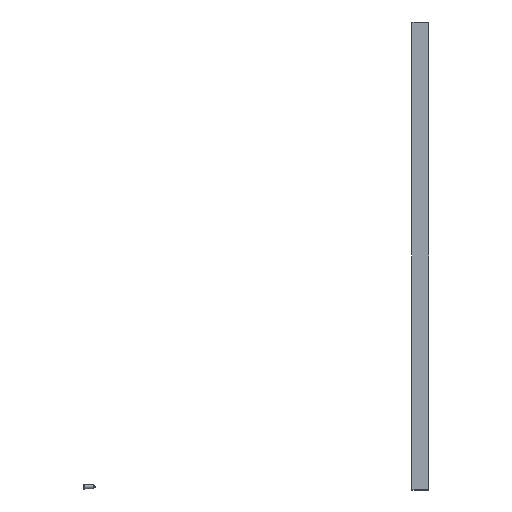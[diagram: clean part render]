
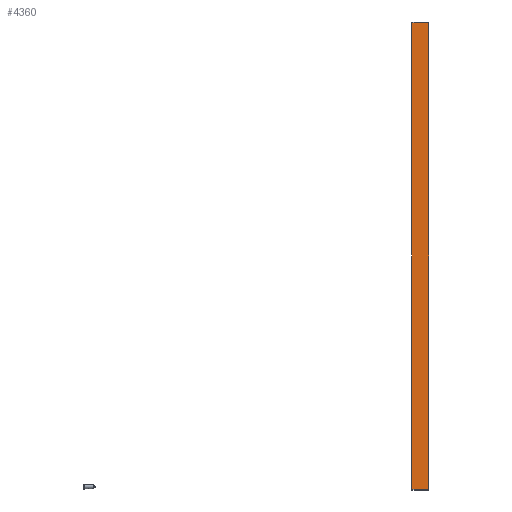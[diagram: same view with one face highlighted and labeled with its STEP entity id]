
A CAD part, left-side view. The second image highlights one B-rep face of the part: STEP entity #4360.
In plain terms, the highlighted planar face has unit normal (-1, 0, 0).
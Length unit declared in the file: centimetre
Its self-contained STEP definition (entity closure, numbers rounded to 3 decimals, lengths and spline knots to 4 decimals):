
#345=LINE('',#5788,#746);
#366=LINE('',#5831,#767);
#416=LINE('',#5952,#817);
#417=LINE('',#5954,#818);
#746=VECTOR('',#4982,1.);
#767=VECTOR('',#5007,1.);
#817=VECTOR('',#5135,1.);
#818=VECTOR('',#5138,1.);
#1207=PLANE('',#4686);
#1366=FACE_OUTER_BOUND('',#1630,.T.);
#1630=EDGE_LOOP('',(#3286,#3287,#3288,#3289));
#1948=VERTEX_POINT('',#5786);
#1949=VERTEX_POINT('',#5787);
#1968=VERTEX_POINT('',#5828);
#1969=VERTEX_POINT('',#5830);
#2402=EDGE_CURVE('',#1948,#1949,#345,.T.);
#2423=EDGE_CURVE('',#1968,#1969,#366,.T.);
#2485=EDGE_CURVE('',#1968,#1949,#416,.T.);
#2486=EDGE_CURVE('',#1969,#1948,#417,.T.);
#3286=ORIENTED_EDGE('',*,*,#2402,.F.);
#3287=ORIENTED_EDGE('',*,*,#2486,.F.);
#3288=ORIENTED_EDGE('',*,*,#2423,.F.);
#3289=ORIENTED_EDGE('',*,*,#2485,.T.);
#4360=ADVANCED_FACE('',(#1366),#1207,.T.);
#4686=AXIS2_PLACEMENT_3D('',#5953,#5136,#5137);
#4982=DIRECTION('',(0.,-1.,0.));
#5007=DIRECTION('',(0.,1.,0.));
#5135=DIRECTION('',(0.,0.,1.));
#5136=DIRECTION('center_axis',(-1.,0.,0.));
#5137=DIRECTION('ref_axis',(0.,-1.,0.));
#5138=DIRECTION('',(0.,0.,1.));
#5786=CARTESIAN_POINT('',(-0.34,2.5,70.));
#5787=CARTESIAN_POINT('',(-0.34,-2.5,70.));
#5788=CARTESIAN_POINT('',(-0.34,2.5,70.));
#5828=CARTESIAN_POINT('',(-0.34,-2.5,-70.));
#5830=CARTESIAN_POINT('',(-0.34,2.5,-70.));
#5831=CARTESIAN_POINT('',(-0.34,2.5,-70.));
#5952=CARTESIAN_POINT('',(-0.34,-2.5,0.));
#5953=CARTESIAN_POINT('Origin',(-0.34,2.5,0.));
#5954=CARTESIAN_POINT('',(-0.34,2.5,0.));
